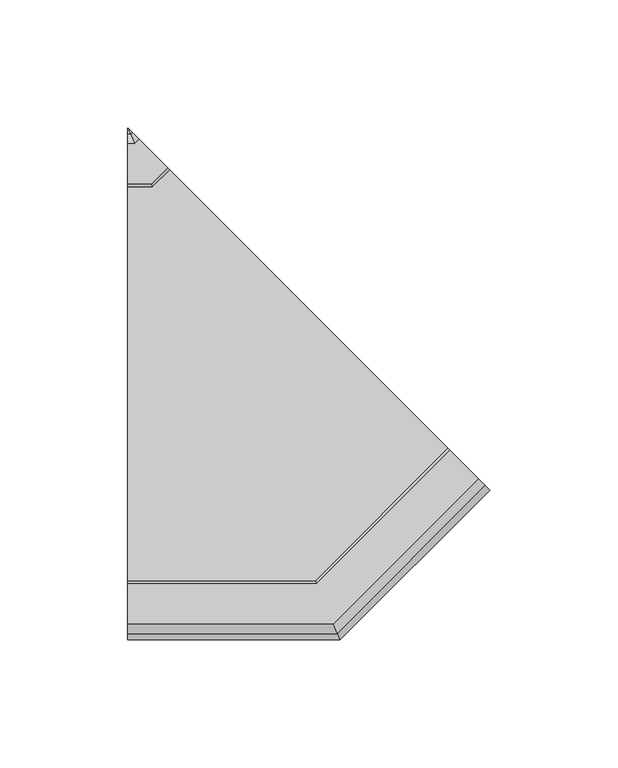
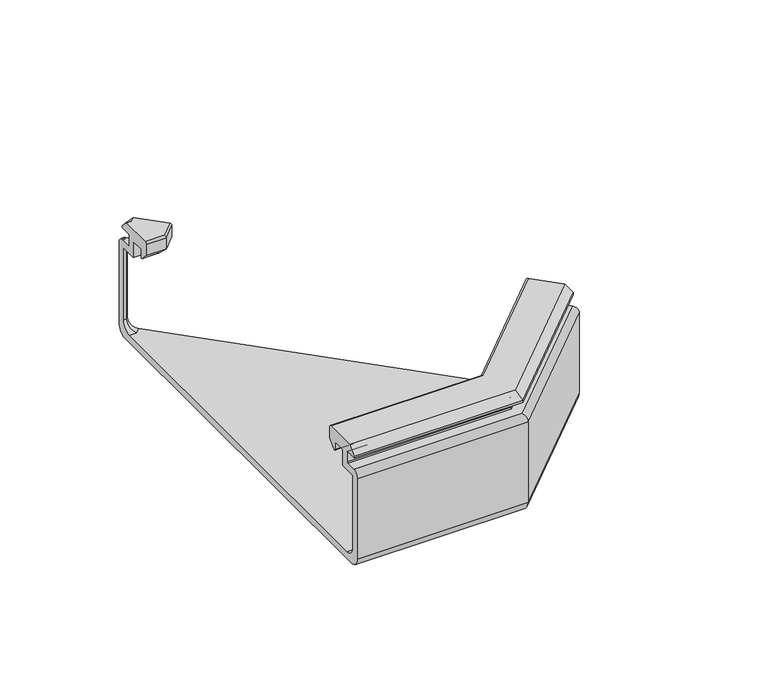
"""IFC4 building model written with IfcOpenShell, lengths in millimetres: cable carrier fitting geometry, JUBPE-B_Juction-Basorplast : 2 x Basorplast JUBPE-B 60."""

from ifc_helpers import new_model, si_unit, frame, origin, place, context, project, spatial, polyline, circle_curve, ellipse_curve, source, transform, mapped, element, save
from ifc_brep_helpers import plane_surface, cylinder_surface, revolved_surface, advanced_brep


def cable_carrier_fitting_aa413bb8(model_context):
    return source(origin(), model_context, "Body", "AdvancedBrep", [
        advanced_brep(
        [(-53.175, -127.4714466, 19.6464466), (-53.175, -128.325, 20.0), (-53.175, -128.325, 24.0), (-53.175, -134.725, 24.0), (-53.175, -134.725, 15.7), (-53.175, -143.225, 15.7), (-53.175, -143.225, -21.4), (-53.175, -138.225, -26.4), (-53.175, 44.575, -26.4), (-53.175, 49.575, -21.4), (-53.175, 49.575, 15.7), (-53.175, 41.075, 15.7), (-53.175, 41.075, 24.0), (-53.175, 34.675, 24.0), (-53.175, 34.675, 20.0), (-53.175, 33.8214466, 19.6464466), (-53.175, 30.175, 23.2928932), (-53.175, 30.175, 29.0), (-53.175, 31.175, 30.0), (-53.175, 46.975, 30.0), (-53.175, 50.675, 26.3), (-53.175, 50.675, 25.3), (-53.175, 45.175, 25.3), (-53.175, 44.675, 24.8), (-53.175, 44.675, 19.8), (-53.175, 45.175, 19.3), (-53.175, 50.175, 19.3), (-53.175, 53.175, 16.3), (-53.175, 53.175, -25.0), (-53.175, 48.175, -30.0), (-53.175, -141.825, -30.0), (-53.175, -146.825, -25.0), (-53.175, -146.825, 16.3), (-53.175, -143.825, 19.3), (-53.175, -138.825, 19.3), (-53.175, -138.325, 19.8), (-53.175, -138.325, 24.8), (-53.175, -138.825, 25.3), (-53.175, -144.325, 25.3), (-53.175, -144.325, 26.3), (-53.175, -140.625, 30.0), (-53.175, -124.825, 30.0), (-53.175, -123.825, 29.0), (-53.175, -123.825, 23.2928932), (21.6512082, -127.4714466, 19.6464466), (22.0047616, -128.325, 20.0), (22.0047616, -128.325, 24.0), (75.1648808, -75.1648808, 24.0), (79.6903642, -79.6903642, 24.0), (24.6557284, -134.725, 24.0), (24.6557284, -134.725, 15.7), (79.6903642, -79.6903642, 15.7), (85.7007718, -85.7007718, 15.7), (28.1765437, -143.225, 15.7), (28.1765437, -143.225, -21.4), (26.1054758, -138.225, -26.4), (82.1652379, -82.1652379, -26.4), (-47.0938817, 47.0938817, -26.4), (-49.6127634, 44.575, -26.4), (-51.6838312, 49.575, -21.4), (-51.6838312, 49.575, 15.7), (-50.6294156, 50.6294156, 15.7), (-44.6190079, 44.6190079, 15.7), (-48.1630159, 41.075, 15.7), (-48.1630159, 41.075, 24.0), (-44.6190079, 44.6190079, 24.0), (-40.0935245, 40.0935245, 24.0), (-45.5120491, 34.675, 24.0), (-45.5120491, 34.675, 20.0), (-45.1584957, 33.8214466, 19.6464466), (-43.6480881, 30.175, 23.2928932), (-43.6480881, 30.175, 29.0), (-44.0623016, 31.175, 30.0), (-37.6186508, 37.6186508, 30.0), (-48.790938, 48.790938, 30.0), (-50.6068759, 46.975, 30.0), (-52.1394661, 50.675, 26.3), (-52.1394661, 50.675, 25.3), (-51.407233, 51.407233, 25.3), (-47.5181458, 47.5181458, 25.3), (-49.8612915, 45.175, 25.3), (-49.6541847, 44.675, 24.8), (-49.6541847, 44.675, 19.8), (-49.8612915, 45.175, 19.3), (-47.5181458, 47.5181458, 19.3), (-51.0536797, 51.0536797, 19.3), (-51.9323593, 50.175, 19.3), (-51.1039322, 48.175, -30.0), (-49.6394661, 49.6394661, -30.0), (84.7108223, -84.7108223, -30.0), (27.5966447, -141.825, -30.0), (29.6677125, -146.825, -25.0), (29.6677125, -146.825, 16.3), (28.4250718, -143.825, 19.3), (86.1250359, -86.1250359, 19.3), (82.589502, -82.589502, 19.3), (26.354004, -138.825, 19.3), (26.1468972, -138.325, 19.8), (26.1468972, -138.325, 24.8), (26.354004, -138.825, 25.3), (82.589502, -82.589502, 25.3), (86.4785893, -86.4785893, 25.3), (28.6321786, -144.325, 25.3), (28.6321786, -144.325, 26.3), (27.0995884, -140.625, 30.0), (83.8622942, -83.8622942, 30.0), (72.6900071, -72.6900071, 30.0), (20.5550141, -124.825, 30.0), (20.1408005, -123.825, 29.0), (20.1408005, -123.825, 23.2928932), (74.5613274, -74.5613274, 19.6464466), (71.9829003, -71.9829003, 23.2928932), (71.9829003, -71.9829003, 29.0), (86.4785893, -86.4785893, 26.3), (82.2359486, -82.2359486, 24.8), (82.2359486, -82.2359486, 19.8), (88.2463562, -88.2463562, 16.3), (88.2463562, -88.2463562, -25.0), (-47.1645924, 47.1645924, 19.8), (-47.1645924, 47.1645924, 24.8), (-51.407233, 51.407233, 26.3), (-36.911544, 36.911544, 29.0), (-36.911544, 36.911544, 23.2928932), (-39.4899712, 39.4899712, 19.6464466), (-40.0935245, 40.0935245, 20.0), (-50.6294156, 50.6294156, -21.4), (85.7007718, -85.7007718, -21.4), (75.1648808, -75.1648808, 20.0)],
        [
            (0, 1, circle_curve(frame((-53.175, -127.825, 20.0), z_axis=(-1.0, 0.0, 0.0), x_axis=(0.0, 1.0, 0.0)), 0.5)),
            (1, 2),
            (2, 3),
            (3, 4),
            (4, 5),
            (5, 6),
            (6, 7, circle_curve(frame((-53.175, -138.225, -21.4), z_axis=(1.0, 0.0, 0.0), x_axis=(0.0, 1.0, 0.0)), 5.0)),
            (7, 8),
            (8, 9, circle_curve(frame((-53.175, 44.575, -21.4), z_axis=(1.0, 0.0, 0.0), x_axis=(0.0, 1.0, 0.0)), 5.0)),
            (9, 10),
            (10, 11),
            (11, 12),
            (12, 13),
            (13, 14),
            (14, 15, circle_curve(frame((-53.175, 34.175, 20.0), z_axis=(-1.0, 0.0, 0.0), x_axis=(0.0, 1.0, 0.0)), 0.5)),
            (15, 16),
            (16, 17),
            (17, 18, circle_curve(frame((-53.175, 31.175, 29.0), z_axis=(-1.0, 0.0, 0.0), x_axis=(0.0, 1.0, 0.0)), 1.0)),
            (18, 19),
            (19, 20),
            (20, 21),
            (21, 22),
            (22, 23, circle_curve(frame((-53.175, 45.175, 24.8), z_axis=(1.0, 0.0, 0.0), x_axis=(0.0, 1.0, 0.0)), 0.5)),
            (23, 24),
            (24, 25, circle_curve(frame((-53.175, 45.175, 19.8), z_axis=(1.0, 0.0, 0.0), x_axis=(0.0, 1.0, 0.0)), 0.5)),
            (25, 26),
            (26, 27, circle_curve(frame((-53.175, 50.175, 16.3), z_axis=(-1.0, 0.0, 0.0), x_axis=(0.0, 1.0, 0.0)), 3.0)),
            (27, 28),
            (28, 29, circle_curve(frame((-53.175, 48.175, -25.0), z_axis=(-1.0, 0.0, 0.0), x_axis=(0.0, 1.0, 0.0)), 5.0)),
            (29, 30),
            (30, 31, circle_curve(frame((-53.175, -141.825, -25.0), z_axis=(-1.0, 0.0, 0.0), x_axis=(0.0, 1.0, 0.0)), 5.0)),
            (31, 32),
            (32, 33, circle_curve(frame((-53.175, -143.825, 16.3), z_axis=(-1.0, 0.0, 0.0), x_axis=(0.0, 1.0, 0.0)), 3.0)),
            (33, 34),
            (34, 35, circle_curve(frame((-53.175, -138.825, 19.8), z_axis=(1.0, 0.0, 0.0), x_axis=(0.0, 1.0, 0.0)), 0.5)),
            (35, 36),
            (36, 37, circle_curve(frame((-53.175, -138.825, 24.8), z_axis=(1.0, 0.0, 0.0), x_axis=(0.0, 1.0, 0.0)), 0.5)),
            (37, 38),
            (38, 39),
            (39, 40),
            (40, 41),
            (41, 42, circle_curve(frame((-53.175, -124.825, 29.0), z_axis=(-1.0, 0.0, 0.0), x_axis=(0.0, 1.0, 0.0)), 1.0)),
            (42, 43),
            (43, 0),
            (0, 44),
            (44, 45, ellipse_curve(frame((21.7976548, -127.825, 20.0), z_axis=(-0.9238795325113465, -0.38268343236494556, 0.0), x_axis=(-0.3826834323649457, 0.9238795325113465, 0.0)), 0.5411961, 0.5)),
            (45, 1),
            (45, 46),
            (46, 2),
            (46, 47),
            (47, 48),
            (48, 49),
            (49, 3),
            (49, 50),
            (50, 4),
            (50, 51),
            (51, 52),
            (52, 53),
            (53, 5),
            (53, 54),
            (54, 6),
            (54, 55, ellipse_curve(frame((26.1054758, -138.225, -21.4), z_axis=(0.9238795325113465, 0.38268343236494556, 0.0), x_axis=(0.3826834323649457, -0.9238795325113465, 0.0)), 5.411961, 5.0)),
            (55, 7),
            (55, 56),
            (56, 57),
            (57, 58),
            (58, 8),
            (58, 59, ellipse_curve(frame((-49.6127634, 44.575, -21.4), z_axis=(0.9238795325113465, 0.38268343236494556, 0.0), x_axis=(0.3826834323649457, -0.9238795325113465, 0.0)), 5.411961, 5.0)),
            (59, 9),
            (59, 60),
            (60, 10),
            (60, 61),
            (61, 62),
            (62, 63),
            (63, 11),
            (63, 64),
            (64, 12),
            (64, 65),
            (65, 66),
            (66, 67),
            (67, 13),
            (67, 68),
            (68, 14),
            (68, 69, ellipse_curve(frame((-45.3049423, 34.175, 20.0), z_axis=(-0.9238795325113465, -0.38268343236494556, 0.0), x_axis=(-0.3826834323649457, 0.9238795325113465, 0.0)), 0.5411961, 0.5)),
            (69, 15),
            (69, 70),
            (70, 16),
            (70, 71),
            (71, 17),
            (71, 72, ellipse_curve(frame((-44.0623016, 31.175, 29.0), z_axis=(-0.9238795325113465, -0.38268343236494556, 0.0), x_axis=(-0.3826834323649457, 0.9238795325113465, 0.0)), 1.0823922, 1.0)),
            (72, 18),
            (72, 73),
            (73, 74),
            (74, 75),
            (75, 19),
            (75, 76),
            (76, 20),
            (76, 77),
            (77, 21),
            (77, 78),
            (78, 79),
            (79, 80),
            (80, 22),
            (80, 81, ellipse_curve(frame((-49.8612915, 45.175, 24.8), z_axis=(0.9238795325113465, 0.38268343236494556, 0.0), x_axis=(0.3826834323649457, -0.9238795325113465, 0.0)), 0.5411961, 0.5)),
            (81, 23),
            (81, 82),
            (82, 24),
            (82, 83, ellipse_curve(frame((-49.8612915, 45.175, 19.8), z_axis=(0.9238795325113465, 0.38268343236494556, 0.0), x_axis=(0.3826834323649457, -0.9238795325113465, 0.0)), 0.5411961, 0.5)),
            (83, 25),
            (83, 84),
            (84, 85),
            (85, 86),
            (86, 26),
            (86, 27, ellipse_curve(frame((-51.9323593, 50.175, 16.3), z_axis=(-0.9238795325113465, -0.38268343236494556, 0.0), x_axis=(-0.3826834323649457, 0.9238795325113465, 0.0)), 3.2471766, 3.0)),
            (28, 87, ellipse_curve(frame((-51.1039322, 48.175, -25.0), z_axis=(-0.9238795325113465, -0.38268343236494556, 0.0), x_axis=(-0.3826834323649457, 0.9238795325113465, 0.0)), 5.411961, 5.0)),
            (87, 29),
            (87, 88),
            (88, 89),
            (89, 90),
            (90, 30),
            (90, 91, ellipse_curve(frame((27.5966447, -141.825, -25.0), z_axis=(-0.9238795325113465, -0.38268343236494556, 0.0), x_axis=(-0.3826834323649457, 0.9238795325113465, 0.0)), 5.411961, 5.0)),
            (91, 31),
            (91, 92),
            (92, 32),
            (92, 93, ellipse_curve(frame((28.4250718, -143.825, 16.3), z_axis=(-0.9238795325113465, -0.38268343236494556, 0.0), x_axis=(-0.3826834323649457, 0.9238795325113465, 0.0)), 3.2471766, 3.0)),
            (93, 33),
            (93, 94),
            (94, 95),
            (95, 96),
            (96, 34),
            (96, 97, ellipse_curve(frame((26.354004, -138.825, 19.8), z_axis=(0.9238795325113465, 0.38268343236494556, 0.0), x_axis=(0.3826834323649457, -0.9238795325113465, 0.0)), 0.5411961, 0.5)),
            (97, 35),
            (97, 98),
            (98, 36),
            (98, 99, ellipse_curve(frame((26.354004, -138.825, 24.8), z_axis=(0.9238795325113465, 0.38268343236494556, 0.0), x_axis=(0.3826834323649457, -0.9238795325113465, 0.0)), 0.5411961, 0.5)),
            (99, 37),
            (99, 100),
            (100, 101),
            (101, 102),
            (102, 38),
            (102, 103),
            (103, 39),
            (103, 104),
            (104, 40),
            (104, 105),
            (105, 106),
            (106, 107),
            (107, 41),
            (107, 108, ellipse_curve(frame((20.5550141, -124.825, 29.0), z_axis=(-0.9238795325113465, -0.38268343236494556, 0.0), x_axis=(-0.3826834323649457, 0.9238795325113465, 0.0)), 1.0823922, 1.0)),
            (108, 42),
            (108, 109),
            (109, 43),
            (109, 44),
            (110, 111),
            (111, 112),
            (112, 106, circle_curve(frame((72.6900071, -72.6900071, 29.0), z_axis=(0.7071067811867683, 0.7071067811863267, 0.0), x_axis=(-0.7071067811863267, 0.7071067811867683, 0.0)), 1.0)),
            (105, 113),
            (113, 101),
            (100, 114, circle_curve(frame((82.589502, -82.589502, 24.8), z_axis=(-0.7071067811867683, -0.7071067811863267, 0.0), x_axis=(-0.7071067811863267, 0.7071067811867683, 0.0)), 0.5)),
            (114, 115),
            (115, 95, circle_curve(frame((82.589502, -82.589502, 19.8), z_axis=(-0.7071067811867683, -0.7071067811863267, 0.0), x_axis=(-0.7071067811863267, 0.7071067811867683, 0.0)), 0.5)),
            (94, 116, circle_curve(frame((86.1250359, -86.1250359, 16.3), z_axis=(0.7071067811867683, 0.7071067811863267, 0.0), x_axis=(-0.7071067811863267, 0.7071067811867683, 0.0)), 3.0)),
            (116, 117),
            (117, 89, circle_curve(frame((84.7108223, -84.7108223, -25.0), z_axis=(0.7071067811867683, 0.7071067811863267, 0.0), x_axis=(-0.7071067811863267, 0.7071067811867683, 0.0)), 5.0)),
            (88, 28, circle_curve(frame((-49.6394661, 49.6394661, -25.0), z_axis=(0.7071067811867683, 0.7071067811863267, 0.0), x_axis=(-0.7071067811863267, 0.7071067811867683, 0.0)), 5.0)),
            (27, 85, circle_curve(frame((-51.0536797, 51.0536797, 16.3), z_axis=(0.7071067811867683, 0.7071067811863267, 0.0), x_axis=(-0.7071067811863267, 0.7071067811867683, 0.0)), 3.0)),
            (84, 118, circle_curve(frame((-47.5181458, 47.5181458, 19.8), z_axis=(-0.7071067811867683, -0.7071067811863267, 0.0), x_axis=(-0.7071067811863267, 0.7071067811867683, 0.0)), 0.5)),
            (118, 119),
            (119, 79, circle_curve(frame((-47.5181458, 47.5181458, 24.8), z_axis=(-0.7071067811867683, -0.7071067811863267, 0.0), x_axis=(-0.7071067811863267, 0.7071067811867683, 0.0)), 0.5)),
            (78, 120),
            (120, 74),
            (73, 121, circle_curve(frame((-37.6186508, 37.6186508, 29.0), z_axis=(0.7071067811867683, 0.7071067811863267, 0.0), x_axis=(-0.7071067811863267, 0.7071067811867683, 0.0)), 1.0)),
            (121, 122),
            (122, 123),
            (123, 124, circle_curve(frame((-39.7399712, 39.7399712, 20.0), z_axis=(0.7071067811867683, 0.7071067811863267, 0.0), x_axis=(-0.7071067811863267, 0.7071067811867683, 0.0)), 0.5)),
            (124, 66),
            (65, 62),
            (61, 125),
            (125, 57, circle_curve(frame((-47.0938817, 47.0938817, -21.4), z_axis=(-0.7071067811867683, -0.7071067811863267, 0.0), x_axis=(-0.7071067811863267, 0.7071067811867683, 0.0)), 5.0)),
            (56, 126, circle_curve(frame((82.1652379, -82.1652379, -21.4), z_axis=(-0.7071067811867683, -0.7071067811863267, 0.0), x_axis=(-0.7071067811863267, 0.7071067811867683, 0.0)), 5.0)),
            (126, 52),
            (51, 48),
            (47, 127),
            (127, 110, circle_curve(frame((74.8113274, -74.8113274, 20.0), z_axis=(0.7071067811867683, 0.7071067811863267, 0.0), x_axis=(-0.7071067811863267, 0.7071067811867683, 0.0)), 0.5)),
            (44, 110),
            (127, 45),
            (126, 54),
            (125, 59),
            (124, 68),
            (123, 69),
            (122, 70),
            (121, 71),
            (120, 76),
            (119, 81),
            (118, 82),
            (117, 91),
            (116, 92),
            (115, 97),
            (114, 98),
            (113, 103),
            (112, 108),
            (111, 109),
        ],
        [
            plane_surface(frame((-53.175, -46.825, 0.0), z_axis=(-1.0, 0.0, 0.0), x_axis=(0.0, 0.0, 1.0))),
            cylinder_surface(frame((-53.175, -127.825, 20.0), z_axis=(-1.0, 0.0, 0.0), x_axis=(0.0, 1.0, 0.0)), 0.5),
            plane_surface(frame((-53.175, -128.325, 20.0), z_axis=(0.0, -1.0, 0.0), x_axis=(1.0, 0.0, 0.0))),
            plane_surface(frame((-53.175, -128.325, 24.0), z_axis=(0.0, 0.0, -1.0), x_axis=(1.0, 0.0, 0.0))),
            plane_surface(frame((-53.175, -134.725, 24.0), z_axis=(0.0, 1.0, 0.0), x_axis=(1.0, 0.0, 0.0))),
            plane_surface(frame((-53.175, -134.725, 15.7), z_axis=(0.0, 0.0, -1.0), x_axis=(1.0, 0.0, 0.0))),
            plane_surface(frame((-53.175, -143.225, 15.7), z_axis=(0.0, 1.0, 0.0), x_axis=(1.0, 0.0, 0.0))),
            revolved_surface(polyline([(28.176543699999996, -133.225, -21.4), (-53.175, -133.225, -21.4)]), (-53.175, -138.225, -21.4), (1.0, 0.0, 0.0)),
            plane_surface(frame((-53.175, -138.225, -26.4), z_axis=(0.0, 0.0, 1.0), x_axis=(1.0, 0.0, 0.0))),
            revolved_surface(polyline([(-47.54169558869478, 49.575, -21.4), (-53.175, 49.575, -21.4)]), (-53.175, 44.575, -21.4), (1.0, 0.0, 0.0)),
            plane_surface(frame((-53.175, 49.575, -21.4), z_axis=(0.0, -1.0, 0.0), x_axis=(1.0, 0.0, 0.0))),
            plane_surface(frame((-53.175, 49.575, 15.7), z_axis=(0.0, 0.0, -1.0), x_axis=(1.0, 0.0, 0.0))),
            plane_surface(frame((-53.175, 41.075, 15.7), z_axis=(0.0, -1.0, 0.0), x_axis=(1.0, 0.0, 0.0))),
            plane_surface(frame((-53.175, 41.075, 24.0), z_axis=(0.0, 0.0, -1.0), x_axis=(1.0, 0.0, 0.0))),
            plane_surface(frame((-53.175, 34.675, 24.0), z_axis=(0.0, 1.0, 0.0), x_axis=(1.0, 0.0, 0.0))),
            cylinder_surface(frame((-53.175, 34.175, 20.0), z_axis=(-1.0, 0.0, 0.0), x_axis=(0.0, 1.0, 0.0)), 0.5),
            plane_surface(frame((-53.175, 33.8214466, 19.6464466), z_axis=(0.0, -0.7071067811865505, -0.7071067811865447), x_axis=(1.0, 0.0, 0.0))),
            plane_surface(frame((-53.175, 30.175, 23.2928932), z_axis=(0.0, -1.0, 0.0), x_axis=(1.0, 0.0, 0.0))),
            cylinder_surface(frame((-53.175, 31.175, 29.0), z_axis=(-1.0, 0.0, 0.0), x_axis=(0.0, 1.0, 0.0)), 1.0),
            plane_surface(frame((-53.175, 31.175, 30.0), z_axis=(0.0, 0.0, 1.0), x_axis=(1.0, 0.0, 0.0))),
            plane_surface(frame((-53.175, 46.975, 30.0), z_axis=(0.0, 0.707106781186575, 0.70710678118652), x_axis=(1.0, 0.0, 0.0))),
            plane_surface(frame((-53.175, 50.675, 26.3), z_axis=(0.0, 1.0, 0.0), x_axis=(1.0, 0.0, 0.0))),
            plane_surface(frame((-53.175, 50.675, 25.3), z_axis=(0.0, 0.0, -1.0), x_axis=(1.0, 0.0, 0.0))),
            revolved_surface(polyline([(-49.6541847, 45.675, 24.8), (-53.175, 45.675, 24.8)]), (-53.175, 45.175, 24.8), (1.0, 0.0, 0.0)),
            plane_surface(frame((-53.175, 44.675, 24.8), z_axis=(0.0, 1.0, 0.0), x_axis=(1.0, 0.0, 0.0))),
            revolved_surface(polyline([(-49.6541847, 45.675, 19.8), (-53.175, 45.675, 19.8)]), (-53.175, 45.175, 19.8), (1.0, 0.0, 0.0)),
            plane_surface(frame((-53.175, 45.175, 19.3), z_axis=(0.0, 0.0, 1.0), x_axis=(1.0, 0.0, 0.0))),
            cylinder_surface(frame((-53.175, 50.175, 16.3), z_axis=(-1.0, 0.0, 0.0), x_axis=(0.0, 1.0, 0.0)), 3.0),
            cylinder_surface(frame((-53.175, 48.175, -25.0), z_axis=(-1.0, 0.0, 0.0), x_axis=(0.0, 1.0, 0.0)), 5.0),
            plane_surface(frame((-53.175, 48.175, -30.0), z_axis=(0.0, 0.0, -1.0), x_axis=(1.0, 0.0, 0.0))),
            cylinder_surface(frame((-53.175, -141.825, -25.0), z_axis=(-1.0, 0.0, 0.0), x_axis=(0.0, 1.0, 0.0)), 5.0),
            plane_surface(frame((-53.175, -146.825, -25.0), z_axis=(0.0, -1.0, 0.0), x_axis=(1.0, 0.0, 0.0))),
            cylinder_surface(frame((-53.175, -143.825, 16.3), z_axis=(-1.0, 0.0, 0.0), x_axis=(0.0, 1.0, 0.0)), 3.0),
            plane_surface(frame((-53.175, -143.825, 19.3), z_axis=(0.0, 0.0, 1.0), x_axis=(1.0, 0.0, 0.0))),
            revolved_surface(polyline([(26.561110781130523, -138.325, 19.8), (-53.175, -138.325, 19.8)]), (-53.175, -138.825, 19.8), (1.0, 0.0, 0.0)),
            plane_surface(frame((-53.175, -138.325, 19.8), z_axis=(0.0, -1.0, 0.0), x_axis=(1.0, 0.0, 0.0))),
            revolved_surface(polyline([(26.561110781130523, -138.325, 24.8), (-53.175, -138.325, 24.8)]), (-53.175, -138.825, 24.8), (1.0, 0.0, 0.0)),
            plane_surface(frame((-53.175, -138.825, 25.3), z_axis=(0.0, 0.0, -1.0), x_axis=(1.0, 0.0, 0.0))),
            plane_surface(frame((-53.175, -144.325, 25.3), z_axis=(0.0, -1.0, 0.0), x_axis=(1.0, 0.0, 0.0))),
            plane_surface(frame((-53.175, -144.325, 26.3), z_axis=(0.0, -0.7071067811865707, 0.7071067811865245), x_axis=(1.0, 0.0, 0.0))),
            plane_surface(frame((-53.175, -140.625, 30.0), z_axis=(0.0, 0.0, 1.0), x_axis=(1.0, 0.0, 0.0))),
            cylinder_surface(frame((-53.175, -124.825, 29.0), z_axis=(-1.0, 0.0, 0.0), x_axis=(0.0, 1.0, 0.0)), 1.0),
            plane_surface(frame((-53.175, -123.825, 29.0), z_axis=(0.0, 1.0, 0.0), x_axis=(1.0, 0.0, 0.0))),
            plane_surface(frame((-53.175, -123.825, 23.2928932), z_axis=(0.0, 0.7071067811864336, -0.7071067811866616), x_axis=(1.0, 0.0, 0.0))),
            plane_surface(frame((17.5356781, -17.5356781, 0.0), z_axis=(0.7071067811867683, 0.7071067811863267, 0.0), x_axis=(0.0, 0.0, 1.0))),
            cylinder_surface(frame((45.5220055, -104.1006493, 20.0), z_axis=(-0.7071067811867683, -0.7071067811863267, 0.0), x_axis=(-0.7071067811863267, 0.7071067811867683, 0.0)), 0.5),
            plane_surface(frame((22.0047616, -128.325, 20.0), z_axis=(0.7071067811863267, -0.7071067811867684, 0.0), x_axis=(0.7071067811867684, 0.7071067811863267, 0.0))),
            plane_surface(frame((24.6557284, -134.725, 24.0), z_axis=(-0.707106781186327, 0.7071067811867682, 0.0), x_axis=(0.7071067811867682, 0.707106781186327, 0.0))),
            plane_surface(frame((28.1765437, -143.225, 15.7), z_axis=(-0.7071067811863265, 0.7071067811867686, 0.0), x_axis=(0.7071067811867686, 0.7071067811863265, 0.0))),
            revolved_surface(polyline([(78.62970399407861, -78.62970399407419, -21.4), (21.10547580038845, -136.15393218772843, -21.4)]), (52.875916, -111.4545598, -21.4), (0.7071067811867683, 0.7071067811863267, 0.0)),
            revolved_surface(polyline([(-50.62941560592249, 50.6294156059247, -21.4), (-54.61276339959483, 46.64606781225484, -21.4)]), (-76.3832036, 17.8045598, -21.4), (0.7071067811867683, 0.7071067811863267, 0.0)),
            plane_surface(frame((-51.6838312, 49.575, -21.4), z_axis=(0.7071067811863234, -0.7071067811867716, 0.0), x_axis=(0.7071067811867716, 0.7071067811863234, 0.0))),
            plane_surface(frame((-48.1630159, 41.075, 15.7), z_axis=(0.7071067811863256, -0.7071067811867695, 0.0), x_axis=(0.7071067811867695, 0.7071067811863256, 0.0))),
            plane_surface(frame((-45.5120491, 34.675, 24.0), z_axis=(-0.7071067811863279, 0.7071067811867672, 0.0), x_axis=(0.7071067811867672, 0.7071067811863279, 0.0))),
            cylinder_surface(frame((-69.029293, 10.4506493, 20.0), z_axis=(-0.7071067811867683, -0.7071067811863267, 0.0), x_axis=(-0.7071067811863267, 0.7071067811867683, 0.0)), 0.5),
            plane_surface(frame((-45.1584957, 33.8214466, 19.6464466), z_axis=(0.49999999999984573, -0.5000000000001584, -0.7071067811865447), x_axis=(0.7071067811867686, 0.7071067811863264, 0.0))),
            plane_surface(frame((-43.6480881, 30.175, 23.2928932), z_axis=(0.7071067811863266, -0.7071067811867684, 0.0), x_axis=(0.7071067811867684, 0.7071067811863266, 0.0))),
            cylinder_surface(frame((-66.9079727, 8.3293289, 29.0), z_axis=(-0.7071067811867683, -0.7071067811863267, 0.0), x_axis=(-0.7071067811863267, 0.7071067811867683, 0.0)), 1.0),
            plane_surface(frame((-50.6068759, 46.975, 30.0), z_axis=(-0.49999999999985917, 0.5000000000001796, 0.70710678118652), x_axis=(0.7071067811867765, 0.7071067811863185, 0.0))),
            plane_surface(frame((-52.1394661, 50.675, 26.3), z_axis=(-0.7071067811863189, 0.7071067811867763, 0.0), x_axis=(0.7071067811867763, 0.7071067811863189, 0.0))),
            revolved_surface(polyline([(-47.87169914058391, 47.87169914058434, 24.8), (-50.3612914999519, 45.3821067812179, 24.8)]), (-76.8074676, 18.2288239, 24.8), (0.7071067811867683, 0.7071067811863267, 0.0)),
            plane_surface(frame((-49.6541847, 44.675, 24.8), z_axis=(-0.7071067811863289, 0.7071067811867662, 0.0), x_axis=(0.7071067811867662, 0.7071067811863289, 0.0))),
            revolved_surface(polyline([(-47.87169914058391, 47.87169914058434, 19.8), (-50.3612914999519, 45.3821067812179, 19.8)]), (-76.8074676, 18.2288239, 19.8), (0.7071067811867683, 0.7071067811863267, 0.0)),
            cylinder_surface(frame((-80.3430015, 21.7643578, 16.3), z_axis=(-0.7071067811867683, -0.7071067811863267, 0.0), x_axis=(-0.7071067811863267, 0.7071067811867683, 0.0)), 3.0),
            cylinder_surface(frame((-78.928788, 20.3501442, -25.0), z_axis=(-0.7071067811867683, -0.7071067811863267, 0.0), x_axis=(-0.7071067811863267, 0.7071067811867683, 0.0)), 5.0),
            cylinder_surface(frame((55.4215005, -114.0001442, -25.0), z_axis=(-0.7071067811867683, -0.7071067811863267, 0.0), x_axis=(-0.7071067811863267, 0.7071067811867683, 0.0)), 5.0),
            plane_surface(frame((29.6677125, -146.825, -25.0), z_axis=(0.7071067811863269, -0.7071067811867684, 0.0), x_axis=(0.7071067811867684, 0.7071067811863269, 0.0))),
            cylinder_surface(frame((56.835714, -115.4143578, 16.3), z_axis=(-0.7071067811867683, -0.7071067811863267, 0.0), x_axis=(-0.7071067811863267, 0.7071067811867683, 0.0)), 3.0),
            revolved_surface(polyline([(82.23594860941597, -82.23594860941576, 19.8), (25.85400400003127, -138.61789321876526, 19.8)]), (53.3001801, -111.8788239, 19.8), (0.7071067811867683, 0.7071067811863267, 0.0)),
            plane_surface(frame((26.1468972, -138.325, 19.8), z_axis=(0.7071067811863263, -0.7071067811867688, 0.0), x_axis=(0.7071067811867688, 0.7071067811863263, 0.0))),
            revolved_surface(polyline([(82.23594860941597, -82.23594860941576, 24.8), (25.85400400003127, -138.61789321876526, 24.8)]), (53.3001801, -111.8788239, 24.8), (0.7071067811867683, 0.7071067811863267, 0.0)),
            plane_surface(frame((28.6321786, -144.325, 25.3), z_axis=(0.7071067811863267, -0.7071067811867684, 0.0), x_axis=(0.7071067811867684, 0.7071067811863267, 0.0))),
            plane_surface(frame((28.6321786, -144.325, 26.3), z_axis=(0.4999999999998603, -0.5000000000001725, 0.7071067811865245), x_axis=(0.7071067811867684, 0.7071067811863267, 0.0))),
            cylinder_surface(frame((43.4006852, -101.9793289, 29.0), z_axis=(-0.7071067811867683, -0.7071067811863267, 0.0), x_axis=(-0.7071067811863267, 0.7071067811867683, 0.0)), 1.0),
            plane_surface(frame((20.1408005, -123.825, 29.0), z_axis=(-0.7071067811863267, 0.7071067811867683, 0.0), x_axis=(0.7071067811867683, 0.7071067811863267, 0.0))),
            plane_surface(frame((20.1408005, -123.825, 23.2928932), z_axis=(-0.4999999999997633, 0.5000000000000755, -0.7071067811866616), x_axis=(0.7071067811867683, 0.7071067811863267, 0.0))),
        ],
        [
            (0, [[1, 2, 3, 4, 5, 6, 7, 8, 9, 10, 11, 12, 13, 14, 15, 16, 17, 18, 19, 20, 21, 22, 23, 24, 25, 26, 27, 28, 29, 30, 31, 32, 33, 34, 35, 36, 37, 38, 39, 40, 41, 42, 43, 44]]),
            (1, [[-1, 45, 46, 47]]),
            (2, [[-2, -47, 48, 49]]),
            (3, [[-3, -49, 50, 51, 52, 53]]),
            (4, [[-4, -53, 54, 55]]),
            (5, [[-5, -55, 56, 57, 58, 59]]),
            (6, [[-6, -59, 60, 61]]),
            (7, [[-7, -61, 62, 63]]),
            (8, [[-8, -63, 64, 65, 66, 67]]),
            (9, [[-9, -67, 68, 69]]),
            (10, [[-10, -69, 70, 71]]),
            (11, [[-11, -71, 72, 73, 74, 75]]),
            (12, [[-12, -75, 76, 77]]),
            (13, [[-13, -77, 78, 79, 80, 81]]),
            (14, [[-14, -81, 82, 83]]),
            (15, [[-15, -83, 84, 85]]),
            (16, [[-16, -85, 86, 87]]),
            (17, [[-17, -87, 88, 89]]),
            (18, [[-18, -89, 90, 91]]),
            (19, [[-19, -91, 92, 93, 94, 95]]),
            (20, [[-20, -95, 96, 97]]),
            (21, [[-21, -97, 98, 99]]),
            (22, [[-22, -99, 100, 101, 102, 103]]),
            (23, [[-23, -103, 104, 105]]),
            (24, [[-24, -105, 106, 107]]),
            (25, [[-25, -107, 108, 109]]),
            (26, [[-26, -109, 110, 111, 112, 113]]),
            (27, [[-27, -113, 114]]),
            (28, [[-29, 115, 116]]),
            (29, [[-30, -116, 117, 118, 119, 120]]),
            (30, [[-31, -120, 121, 122]]),
            (31, [[-32, -122, 123, 124]]),
            (32, [[-33, -124, 125, 126]]),
            (33, [[-34, -126, 127, 128, 129, 130]]),
            (34, [[-35, -130, 131, 132]]),
            (35, [[-36, -132, 133, 134]]),
            (36, [[-37, -134, 135, 136]]),
            (37, [[-38, -136, 137, 138, 139, 140]]),
            (38, [[-39, -140, 141, 142]]),
            (39, [[-40, -142, 143, 144]]),
            (40, [[-41, -144, 145, 146, 147, 148]]),
            (41, [[-42, -148, 149, 150]]),
            (42, [[-43, -150, 151, 152]]),
            (43, [[-44, -152, 153, -45]]),
            (44, [[154, 155, 156, -146, 157, 158, -138, 159, 160, 161, -128, 162, 163, 164, -118, 165, -28, 166, -111, 167, 168, 169, -101, 170, 171, -93, 172, 173, 174, 175, 176, -79, 177, -73, 178, 179, -65, 180, 181, -57, 182, -51, 183, 184]]),
            (45, [[-46, 185, -184, 186]]),
            (46, [[-48, -186, -183, -50]]),
            (47, [[-54, -52, -182, -56]]),
            (48, [[-60, -58, -181, 187]]),
            (49, [[-62, -187, -180, -64]]),
            (50, [[-68, -66, -179, 188]]),
            (51, [[-70, -188, -178, -72]]),
            (52, [[-76, -74, -177, -78]]),
            (53, [[-82, -80, -176, 189]]),
            (54, [[-84, -189, -175, 190]]),
            (55, [[-86, -190, -174, 191]]),
            (56, [[-88, -191, -173, 192]]),
            (57, [[-90, -192, -172, -92]]),
            (58, [[-96, -94, -171, 193]]),
            (59, [[-98, -193, -170, -100]]),
            (60, [[-104, -102, -169, 194]]),
            (61, [[-106, -194, -168, 195]]),
            (62, [[-108, -195, -167, -110]]),
            (63, [[-114, -112, -166]]),
            (64, [[-115, -165, -117]]),
            (65, [[-121, -119, -164, 196]]),
            (66, [[-123, -196, -163, 197]]),
            (67, [[-125, -197, -162, -127]]),
            (68, [[-131, -129, -161, 198]]),
            (69, [[-133, -198, -160, 199]]),
            (70, [[-135, -199, -159, -137]]),
            (71, [[-141, -139, -158, 200]]),
            (72, [[-143, -200, -157, -145]]),
            (73, [[-149, -147, -156, 201]]),
            (74, [[-151, -201, -155, 202]]),
            (75, [[-153, -202, -154, -185]]),
        ],
    ),
    ])


if __name__ == "__main__":
    model = new_model("IFC4")
    model_context = context("Model", 3, world=origin())
    ifc_project = project(units=[si_unit("LENGTHUNIT", "METRE", prefix="MILLI")], contexts=[model_context])
    site = spatial("IfcSite", under=ifc_project)
    building = spatial("IfcBuilding", under=site)
    placement = place(None, origin())
    cable_carrier_fitting_shape = cable_carrier_fitting_aa413bb8(model_context)
    element("IfcCableCarrierFitting", 1, ObjectType="JUBPE-B_Juction-Basorplast : 2 x Basorplast JUBPE-B 60", at=placement, inside=building, context=model_context, shape_type="MappedRepresentation", body=[
        mapped(cable_carrier_fitting_shape, transform((0.0, 0.0, 0.0), x_axis=(1.0, 0.0, 0.0), y_axis=(0.0, 1.0, 0.0), z_axis=(0.0, 0.0, 1.0))),
    ])
    save(model, "model.ifc")
